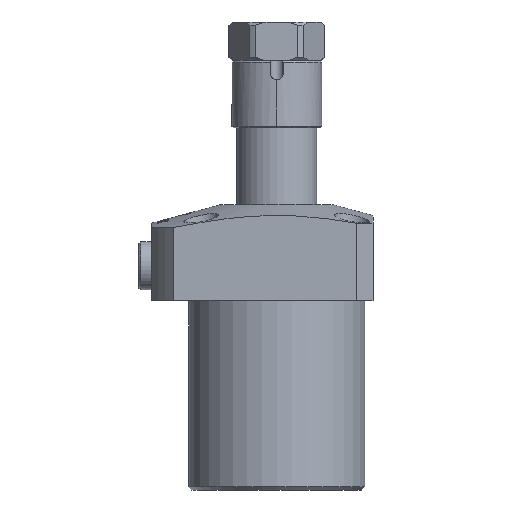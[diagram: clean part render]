
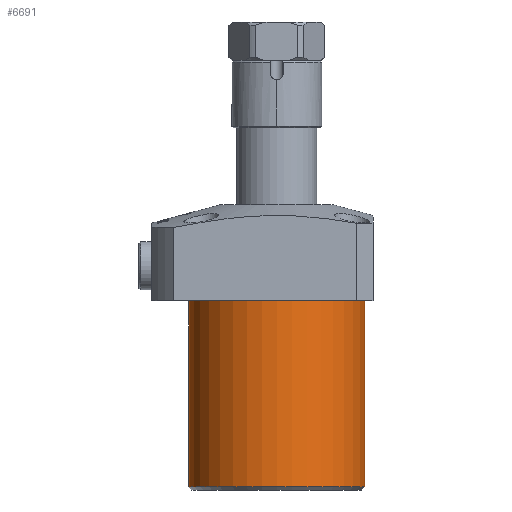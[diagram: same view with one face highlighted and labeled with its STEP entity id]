
A CAD part, front view. The second image highlights one B-rep face of the part: STEP entity #6691.
In plain terms, the highlighted cylindrical face has radius 27.5 mm (diameter 55 mm), a partial arc.
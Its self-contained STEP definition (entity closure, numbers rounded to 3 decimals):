
#495 = LINE ( 'NONE', #7018, #4350 ) ;
#614 = ORIENTED_EDGE ( 'NONE', *, *, #8389, .F. ) ;
#1397 = EDGE_LOOP ( 'NONE', ( #614, #15741, #13934, #4138 ) ) ;
#1531 = AXIS2_PLACEMENT_3D ( 'NONE', #10301, #2534, #11580 ) ;
#2497 = LINE ( 'NONE', #9658, #12799 ) ;
#2534 = DIRECTION ( 'NONE',  ( 0., 0., 1. ) ) ;
#2891 = DIRECTION ( 'NONE',  ( 1., 0., 0. ) ) ;
#3163 = DIRECTION ( 'NONE',  ( 0., 0., -1. ) ) ;
#3292 = VERTEX_POINT ( 'NONE', #4464 ) ;
#3451 = AXIS2_PLACEMENT_3D ( 'NONE', #11933, #13223, #2891 ) ;
#4131 = AXIS2_PLACEMENT_3D ( 'NONE', #10901, #3163, #12186 ) ;
#4138 = ORIENTED_EDGE ( 'NONE', *, *, #5501, .T. ) ;
#4350 = VECTOR ( 'NONE', #16032, 1000. ) ;
#4464 = CARTESIAN_POINT ( 'NONE',  ( -27.5, 0., 0. ) ) ;
#4477 = VERTEX_POINT ( 'NONE', #11516 ) ;
#5501 = EDGE_CURVE ( 'NONE', #8131, #3292, #11193, .T. ) ;
#6691 = ADVANCED_FACE ( 'NONE', ( #13234 ), #9413, .T. ) ;
#6884 = CARTESIAN_POINT ( 'NONE',  ( -27.5, 0., -58. ) ) ;
#7018 = CARTESIAN_POINT ( 'NONE',  ( -27.5, 0., -59. ) ) ;
#7552 = EDGE_CURVE ( 'NONE', #13178, #4477, #13446, .T. ) ;
#8131 = VERTEX_POINT ( 'NONE', #12539 ) ;
#8389 = EDGE_CURVE ( 'NONE', #13178, #3292, #495, .T. ) ;
#9413 = CYLINDRICAL_SURFACE ( 'NONE', #3451, 27.5 ) ;
#9658 = CARTESIAN_POINT ( 'NONE',  ( 27.5, 0., -59. ) ) ;
#10256 = EDGE_CURVE ( 'NONE', #4477, #8131, #2497, .T. ) ;
#10301 = CARTESIAN_POINT ( 'NONE',  ( 0., 0., -58. ) ) ;
#10901 = CARTESIAN_POINT ( 'NONE',  ( 0., 0., 0. ) ) ;
#11193 = CIRCLE ( 'NONE', #4131, 27.5 ) ;
#11516 = CARTESIAN_POINT ( 'NONE',  ( 27.5, 0., -58. ) ) ;
#11580 = DIRECTION ( 'NONE',  ( -1., 0., 0. ) ) ;
#11933 = CARTESIAN_POINT ( 'NONE',  ( 0., 0., -59. ) ) ;
#12186 = DIRECTION ( 'NONE',  ( -1., 0., 0. ) ) ;
#12539 = CARTESIAN_POINT ( 'NONE',  ( 27.5, 0., 0. ) ) ;
#12799 = VECTOR ( 'NONE', #14769, 1000. ) ;
#13178 = VERTEX_POINT ( 'NONE', #6884 ) ;
#13223 = DIRECTION ( 'NONE',  ( 0., 0., 1. ) ) ;
#13234 = FACE_OUTER_BOUND ( 'NONE', #1397, .T. ) ;
#13446 = CIRCLE ( 'NONE', #1531, 27.5 ) ;
#13934 = ORIENTED_EDGE ( 'NONE', *, *, #10256, .T. ) ;
#14769 = DIRECTION ( 'NONE',  ( 0., 0., 1. ) ) ;
#15741 = ORIENTED_EDGE ( 'NONE', *, *, #7552, .T. ) ;
#16032 = DIRECTION ( 'NONE',  ( 0., 0., 1. ) ) ;
